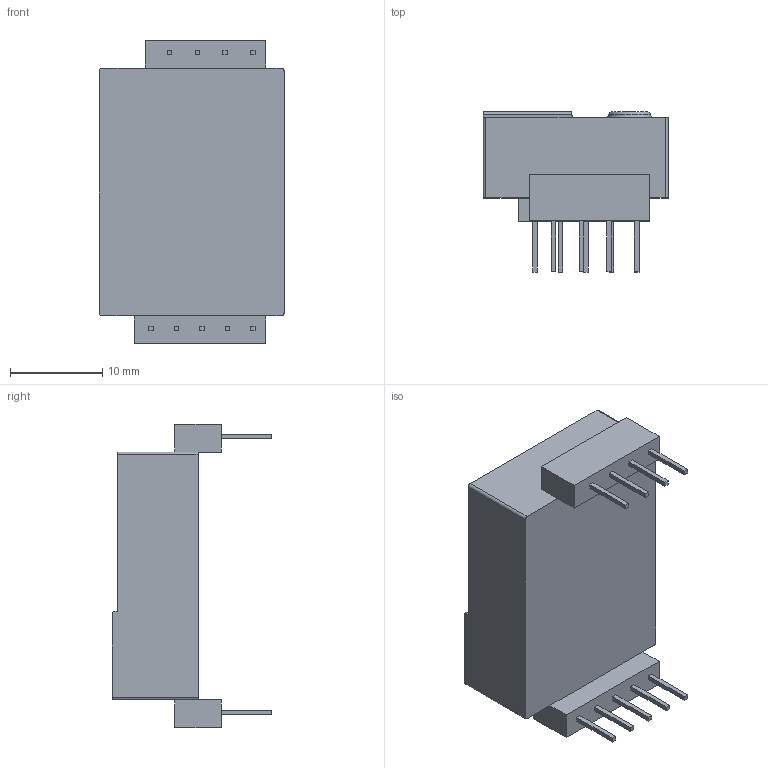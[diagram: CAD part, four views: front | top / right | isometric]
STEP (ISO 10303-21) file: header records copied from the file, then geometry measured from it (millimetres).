
FILE_DESCRIPTION(/* description */ (''),/* implementation_level */ '2;1');
FILE_NAME(/* name */ 'C:\Users\admin\Desktop\sensore_co2_arduino.stp',/* time_stamp */ '2020-12-09T12:25:28+01:00',/* author */ ('admin'),/* organization */ (''),/* preprocessor_version */ 'ST-DEVELOPER v18',/* originating_system */ 'Autodesk Inventor 2020',/* authorisation */ '');
FILE_SCHEMA (('AUTOMOTIVE_DESIGN { 1 0 10303 214 3 1 1 }'));
Length unit declared in the file: millimetre
Products named in the file (1): sensore_co2_arduino
Bounding box: 20.1 x 17.3 x 32.8 mm (x, y, z)
Volume: 5119.7 mm3; surface area: 2385.5 mm2
Topology: 1 solids, 1 shells, 90 faces, 226 edges, 150 vertices
Faces by surface type: plane 81, cylinder 7, torus 2
Entity records: 2767 total; most frequent: CARTESIAN_POINT 467, ORIENTED_EDGE 452, DIRECTION 431, EDGE_CURVE 226, LINE 203, VECTOR 203, VERTEX_POINT 150, AXIS2_PLACEMENT_3D 114
